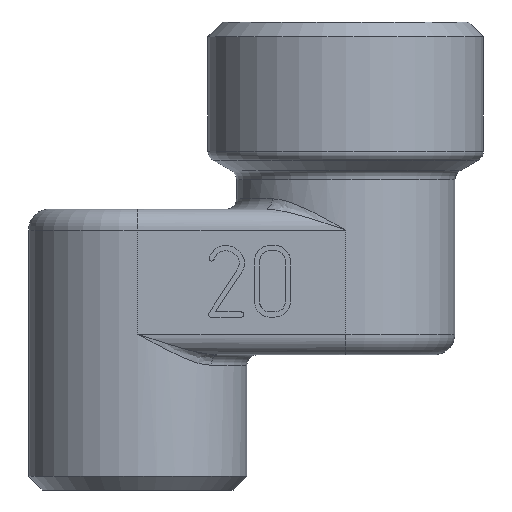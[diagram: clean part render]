
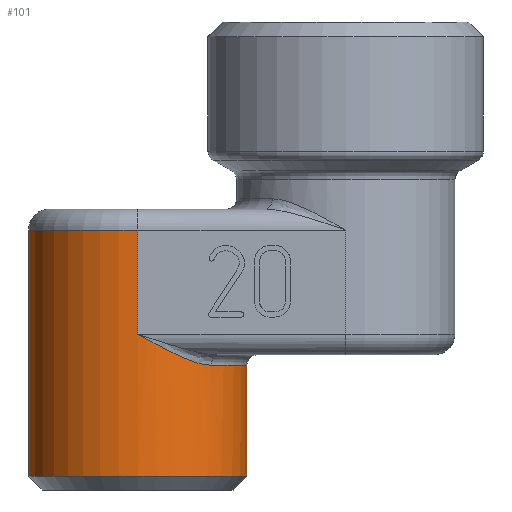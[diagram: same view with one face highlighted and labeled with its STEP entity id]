
A CAD part, left-side view. The second image highlights one B-rep face of the part: STEP entity #101.
In plain terms, the highlighted cylindrical face has radius 10.5 mm (diameter 21 mm), a full revolution.
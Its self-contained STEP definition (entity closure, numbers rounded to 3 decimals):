
#101=ADVANCED_FACE('',(#531,#533),#535,.T.);
#531=FACE_BOUND('',#532,.T.);
#532=EDGE_LOOP('',(#1972,#1973,#1974,#1975,#1976,#1977));
#533=FACE_OUTER_BOUND('',#534,.T.);
#534=EDGE_LOOP('',(#1978));
#535=CYLINDRICAL_SURFACE('',#536,10.5);
#536=AXIS2_PLACEMENT_3D('',#537,#538,#539);
#537=CARTESIAN_POINT('',(0.,0.,0.));
#538=DIRECTION('',(0.,0.,1.));
#539=DIRECTION('',(-1.,0.,0.));
#1972=ORIENTED_EDGE('',*,*,#2453,.F.);
#1973=ORIENTED_EDGE('',*,*,#2454,.F.);
#1974=ORIENTED_EDGE('',*,*,#2455,.F.);
#1975=ORIENTED_EDGE('',*,*,#2456,.F.);
#1976=ORIENTED_EDGE('',*,*,#2297,.T.);
#1977=ORIENTED_EDGE('',*,*,#2457,.F.);
#1978=ORIENTED_EDGE('',*,*,#2458,.T.);
#2297=EDGE_CURVE('',#2606,#2603,#2607,.T.);
#2453=EDGE_CURVE('',#2862,#2863,#2864,.T.);
#2454=EDGE_CURVE('',#2865,#2862,#2866,.T.);
#2455=EDGE_CURVE('',#2867,#2865,#2868,.T.);
#2456=EDGE_CURVE('',#2606,#2867,#2869,.F.);
#2457=EDGE_CURVE('',#2863,#2603,#2870,.T.);
#2458=EDGE_CURVE('',#2871,#2871,#2872,.T.);
#2603=VERTEX_POINT('',#3116);
#2606=VERTEX_POINT('',#3121);
#2607=LINE('',#3122,#3123);
#2862=VERTEX_POINT('',#3703);
#2863=VERTEX_POINT('',#3704);
#2864=LINE('',#3705,#3706);
#2865=VERTEX_POINT('',#3708);
#2866=B_SPLINE_CURVE_WITH_KNOTS('',3,
(#3709,#3710,#3711,#3712,#3713,#3714,#3715,#3716,#3717,#3718,#3719,#3720,#3721,#3722,
#3723,#3724),
.UNSPECIFIED.,.F.,.F.,
(4,1,1,1,1,1,1,1,1,1,1,1,1,4),
(0.,0.069,0.13,0.184,0.245,0.308,
0.384,0.458,0.545,0.626,0.72,
0.832,0.928,1.),
.UNSPECIFIED.);
#2867=VERTEX_POINT('',#3725);
#2868=CIRCLE('',#3726,10.5);
#2869=B_SPLINE_CURVE_WITH_KNOTS('',3,
(#3730,#3731,#3732,#3733,#3734,#3735,#3736,#3737,#3738,#3739,#3740,#3741,#3742,#3743,
#3744,#3745),
.UNSPECIFIED.,.F.,.F.,
(4,1,1,1,1,1,1,1,1,1,1,1,1,4),
(0.,0.069,0.13,0.184,0.245,0.308,
0.384,0.458,0.545,0.626,0.72,
0.832,0.928,1.),
.UNSPECIFIED.);
#2870=CIRCLE('',#3746,10.5);
#2871=VERTEX_POINT('',#3750);
#2872=CIRCLE('',#3751,10.5);
#3116=CARTESIAN_POINT('',(-10.5,0.,25.));
#3121=CARTESIAN_POINT('',(-10.5,0.,15.));
#3122=CARTESIAN_POINT('',(-10.5,0.,15.));
#3123=VECTOR('',#3124,1.);
#3124=DIRECTION('',(0.,0.,1.));
#3703=CARTESIAN_POINT('',(10.5,0.,15.));
#3704=CARTESIAN_POINT('',(10.5,0.,25.));
#3705=CARTESIAN_POINT('',(10.5,0.,15.));
#3706=VECTOR('',#3707,1.);
#3707=DIRECTION('',(0.,0.,1.));
#3708=CARTESIAN_POINT('',(7.761,-7.072,12.));
#3709=CARTESIAN_POINT('',(7.761,-7.072,12.));
#3710=CARTESIAN_POINT('',(7.894,-6.926,11.999));
#3711=CARTESIAN_POINT('',(8.136,-6.645,12.02));
#3712=CARTESIAN_POINT('',(8.453,-6.235,12.091));
#3713=CARTESIAN_POINT('',(8.733,-5.836,12.19));
#3714=CARTESIAN_POINT('',(8.995,-5.424,12.315));
#3715=CARTESIAN_POINT('',(9.261,-4.958,12.482));
#3716=CARTESIAN_POINT('',(9.514,-4.456,12.686));
#3717=CARTESIAN_POINT('',(9.758,-3.895,12.935));
#3718=CARTESIAN_POINT('',(9.969,-3.316,13.212));
#3719=CARTESIAN_POINT('',(10.157,-2.687,13.531));
#3720=CARTESIAN_POINT('',(10.318,-1.993,13.897));
#3721=CARTESIAN_POINT('',(10.433,-1.263,14.296));
#3722=CARTESIAN_POINT('',(10.49,-0.583,14.674));
#3723=CARTESIAN_POINT('',(10.5,-0.175,14.902));
#3724=CARTESIAN_POINT('',(10.5,0.,15.));
#3725=CARTESIAN_POINT('',(-7.761,-7.072,12.));
#3726=AXIS2_PLACEMENT_3D('',#3727,#3728,#3729);
#3727=CARTESIAN_POINT('',(0.,0.,12.));
#3728=DIRECTION('',(0.,0.,1.));
#3729=DIRECTION('',(-0.739,-0.674,0.));
#3730=CARTESIAN_POINT('',(-7.761,-7.072,12.));
#3731=CARTESIAN_POINT('',(-7.894,-6.926,11.999));
#3732=CARTESIAN_POINT('',(-8.136,-6.645,12.02));
#3733=CARTESIAN_POINT('',(-8.453,-6.235,12.091));
#3734=CARTESIAN_POINT('',(-8.733,-5.836,12.19));
#3735=CARTESIAN_POINT('',(-8.995,-5.424,12.315));
#3736=CARTESIAN_POINT('',(-9.261,-4.958,12.482));
#3737=CARTESIAN_POINT('',(-9.514,-4.456,12.686));
#3738=CARTESIAN_POINT('',(-9.758,-3.895,12.935));
#3739=CARTESIAN_POINT('',(-9.969,-3.316,13.212));
#3740=CARTESIAN_POINT('',(-10.157,-2.687,13.531));
#3741=CARTESIAN_POINT('',(-10.318,-1.993,13.897));
#3742=CARTESIAN_POINT('',(-10.433,-1.263,14.296));
#3743=CARTESIAN_POINT('',(-10.49,-0.583,14.674));
#3744=CARTESIAN_POINT('',(-10.5,-0.175,14.902));
#3745=CARTESIAN_POINT('',(-10.5,0.,15.));
#3746=AXIS2_PLACEMENT_3D('',#3747,#3748,#3749);
#3747=CARTESIAN_POINT('',(0.,0.,25.));
#3748=DIRECTION('',(0.,0.,1.));
#3749=DIRECTION('',(1.,0.,0.));
#3750=CARTESIAN_POINT('',(-10.5,0.,1.3));
#3751=AXIS2_PLACEMENT_3D('',#3752,#3753,#3754);
#3752=CARTESIAN_POINT('',(0.,0.,1.3));
#3753=DIRECTION('',(0.,0.,1.));
#3754=DIRECTION('',(-1.,0.,0.));
